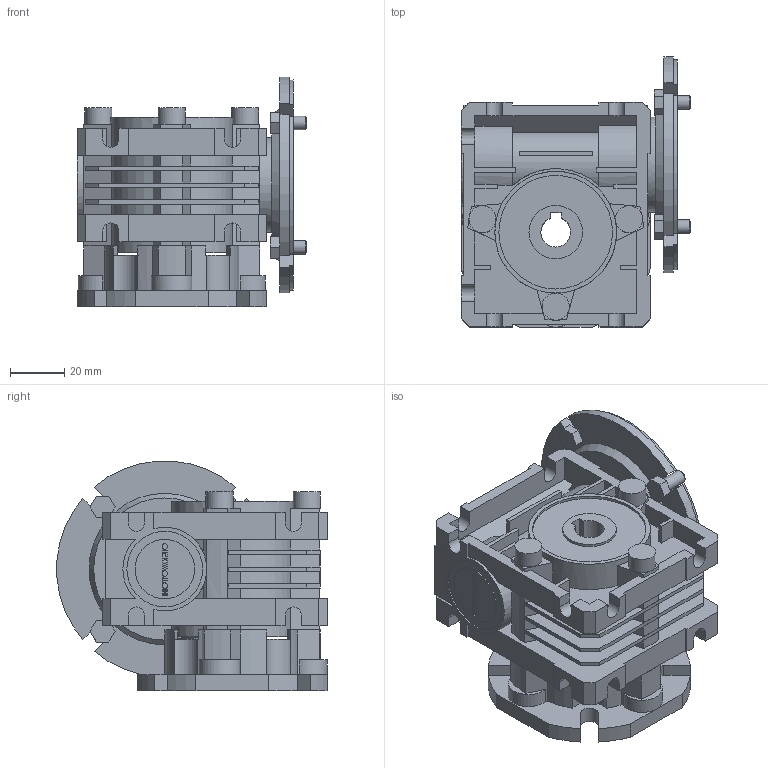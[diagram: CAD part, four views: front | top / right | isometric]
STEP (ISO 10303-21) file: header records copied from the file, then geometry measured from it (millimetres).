
FILE_DESCRIPTION(/* description */ ('STEP AP203'),/* implementation_level */ '2;1');
FILE_NAME(/* name */ 'NMRV0251121112300300NO---_---------------',/* time_stamp */ '2025-11-20T00:39:48+01:00',/* author */ ('License CC BY-ND 4.0'),/* organization */ ('CADENAS'),/* preprocessor_version */ 'ST-DEVELOPER v20',/* originating_system */ 'PARTsolutions',/* authorisation */ ' ');
FILE_SCHEMA (('CONFIG_CONTROL_DESIGN'));
Length unit declared in the file: millimetre
Products named in the file (7): NMRV0251121112300300NO---(---------------); Gear unit 25; 025-11 (50)alc-n; FU 25FA; VB 025-09 (9); 25-56 B14; Screw - M6x54
Assembly tree (8 placements, depth 2):
  NMRV0251121112300300NO---(---------------)
    Gear unit 25
    025-11 (50)alc-n
    FU 25FA
    VB 025-09 (9)
    25-56 B14
    Screw - M6x54  x3
Bounding box: 85 x 99.88 x 84.88 mm (x, y, z)
Volume: 219350.6 mm3; surface area: 94841 mm2
Topology: 8 solids, 8 shells, 685 faces, 1870 edges, 1233 vertices
Faces by surface type: plane 510, cylinder 167, cone 8
Full cylindrical faces by diameter (mm): 2.031 x3, 5 x4, 6 x3, 6.5 x3, 10 x3, 16 x2, 19.8 x2, 22 x1, 28 x1, 30 x2, 32 x1, 35 x1, 40 x1, 42 x1, 45 x3, 50 x1
Entity records: 21262 total; most frequent: CARTESIAN_POINT 3767, ORIENTED_EDGE 3624, DIRECTION 3559, EDGE_CURVE 1812, LINE 1405, VECTOR 1405, VERTEX_POINT 1215, AXIS2_PLACEMENT_3D 1077
